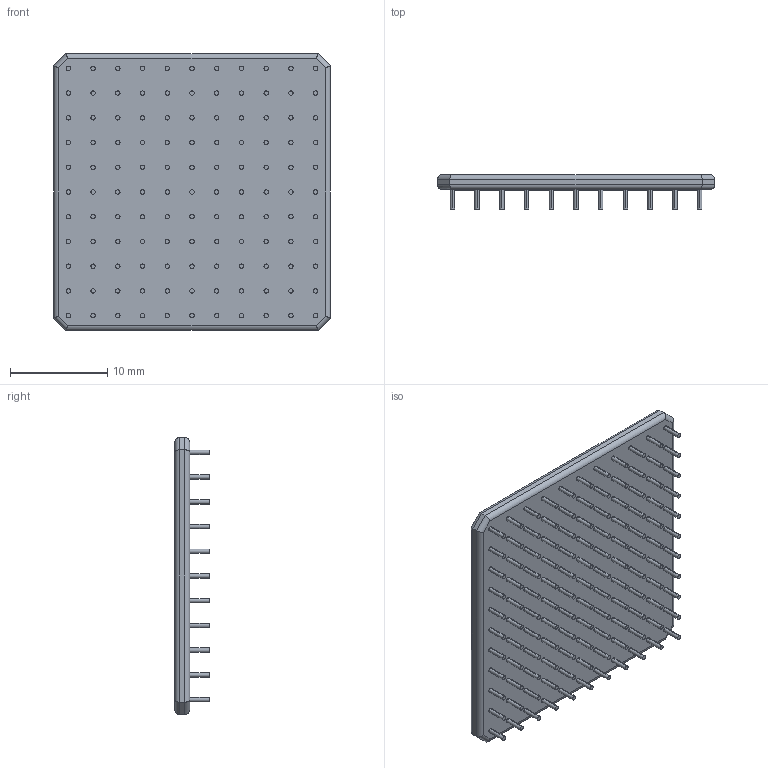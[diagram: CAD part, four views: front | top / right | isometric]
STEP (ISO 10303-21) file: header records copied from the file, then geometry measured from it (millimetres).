
FILE_DESCRIPTION (( 'STEP AP214' ), '1' );
FILE_NAME ( 'PGA121C254P11X11_2845X2845X254P.STEP', '2014-04-11T12:31:22', ( '' ), ( '' ), 'FPX Expert 2013', 'PCB Libraries', '' );
FILE_SCHEMA (( 'AUTOMOTIVE_DESIGN' ));
Length unit declared in the file: millimetre
Products named in the file (1): PGA121C254P11X11_2845X2845X254P
Bounding box: 28.45 x 3.54 x 28.45 mm (x, y, z)
Volume: 1268.2 mm3; surface area: 2115.1 mm2
Topology: 122 solids, 122 shells, 515 faces, 792 edges, 522 vertices
Faces by surface type: cylinder 260, plane 253, torus 2
Entity records: 14246 total; most frequent: DIRECTION 2300, CARTESIAN_POINT 1878, ORIENTED_EDGE 1584, AXIS2_PLACEMENT_3D 1008, EDGE_CURVE 792, STYLED_ITEM 638, PRESENTATION_LAYER_ASSIGNMENT 638, MECHANICAL_DESIGN_GEOMETRIC_PRESENTATION_REPRESENTATION 638
